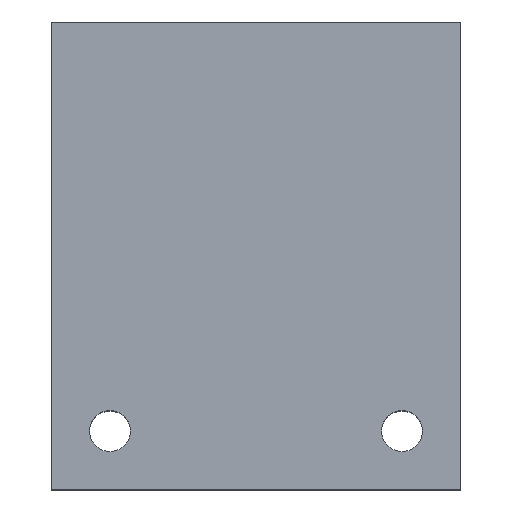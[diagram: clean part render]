
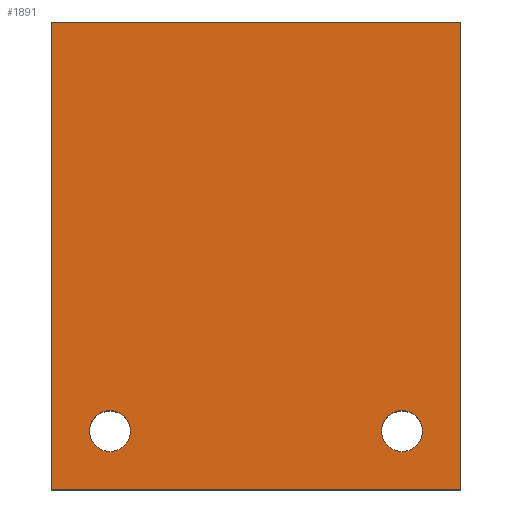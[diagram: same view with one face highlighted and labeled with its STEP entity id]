
A CAD part, top view. The second image highlights one B-rep face of the part: STEP entity #1891.
In plain terms, the highlighted planar face has unit normal (0, 0, 1).
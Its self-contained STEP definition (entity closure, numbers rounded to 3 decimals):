
#18=DIRECTION('',(0.,-1.,0.));
#19=VECTOR('',#18,80.);
#20=CARTESIAN_POINT('',(0.,0.,0.));
#21=LINE('',#20,#19);
#26=DIRECTION('',(-1.,0.,0.));
#27=VECTOR('',#26,70.);
#28=CARTESIAN_POINT('',(70.,0.,0.));
#29=LINE('',#28,#27);
#33=DIRECTION('',(0.,1.,0.));
#34=VECTOR('',#33,80.);
#35=CARTESIAN_POINT('',(70.,-80.,0.));
#36=LINE('',#35,#34);
#40=DIRECTION('',(1.,0.,0.));
#41=VECTOR('',#40,70.);
#42=CARTESIAN_POINT('',(0.,-80.,0.));
#43=LINE('',#42,#41);
#47=CARTESIAN_POINT('',(10.,-70.,0.));
#48=DIRECTION('',(0.,0.,1.));
#49=DIRECTION('',(-1.,0.,0.));
#50=AXIS2_PLACEMENT_3D('',#47,#48,#49);
#55=CARTESIAN_POINT('',(10.,-70.,0.));
#56=DIRECTION('',(0.,0.,1.));
#57=DIRECTION('',(1.,0.,0.));
#58=AXIS2_PLACEMENT_3D('',#55,#56,#57);
#63=CARTESIAN_POINT('',(60.,-70.,0.));
#64=DIRECTION('',(0.,0.,1.));
#65=DIRECTION('',(-1.,0.,0.));
#66=AXIS2_PLACEMENT_3D('',#63,#64,#65);
#71=CARTESIAN_POINT('',(60.,-70.,0.));
#72=DIRECTION('',(0.,0.,1.));
#73=DIRECTION('',(1.,0.,0.));
#74=AXIS2_PLACEMENT_3D('',#71,#72,#73);
#1652=CARTESIAN_POINT('',(0.,0.,0.));
#1653=CARTESIAN_POINT('',(0.,-80.,0.));
#1654=VERTEX_POINT('',#1652);
#1655=VERTEX_POINT('',#1653);
#1656=CARTESIAN_POINT('',(70.,-80.,0.));
#1657=VERTEX_POINT('',#1656);
#1658=CARTESIAN_POINT('',(70.,0.,0.));
#1659=VERTEX_POINT('',#1658);
#1829=CARTESIAN_POINT('',(6.5,-70.,0.));
#1831=VERTEX_POINT('',#1829);
#1833=CARTESIAN_POINT('',(13.5,-70.,0.));
#1835=VERTEX_POINT('',#1833);
#1837=CARTESIAN_POINT('',(56.5,-70.,0.));
#1839=VERTEX_POINT('',#1837);
#1841=CARTESIAN_POINT('',(63.5,-70.,0.));
#1843=VERTEX_POINT('',#1841);
#1864=CARTESIAN_POINT('',(0.,0.,0.));
#1865=DIRECTION('',(0.,0.,1.));
#1866=DIRECTION('',(1.,0.,0.));
#1867=AXIS2_PLACEMENT_3D('',#1864,#1865,#1866);
#1868=PLANE('',#1867);
#1870=ORIENTED_EDGE('',*,*,#1869,.F.);
#1872=ORIENTED_EDGE('',*,*,#1871,.F.);
#1874=ORIENTED_EDGE('',*,*,#1873,.F.);
#1876=ORIENTED_EDGE('',*,*,#1875,.F.);
#1877=EDGE_LOOP('',(#1870,#1872,#1874,#1876));
#1878=FACE_OUTER_BOUND('',#1877,.F.);
#1880=ORIENTED_EDGE('',*,*,#1879,.T.);
#1882=ORIENTED_EDGE('',*,*,#1881,.T.);
#1883=EDGE_LOOP('',(#1880,#1882));
#1884=FACE_BOUND('',#1883,.F.);
#1886=ORIENTED_EDGE('',*,*,#1885,.T.);
#1888=ORIENTED_EDGE('',*,*,#1887,.T.);
#1889=EDGE_LOOP('',(#1886,#1888));
#1890=FACE_BOUND('',#1889,.F.);
#51=CIRCLE('',#50,3.5);
#59=CIRCLE('',#58,3.5);
#67=CIRCLE('',#66,3.5);
#75=CIRCLE('',#74,3.5);
#1869=EDGE_CURVE('',#1654,#1655,#21,.T.);
#1871=EDGE_CURVE('',#1659,#1654,#29,.T.);
#1873=EDGE_CURVE('',#1657,#1659,#36,.T.);
#1875=EDGE_CURVE('',#1655,#1657,#43,.T.);
#1879=EDGE_CURVE('',#1831,#1835,#51,.T.);
#1881=EDGE_CURVE('',#1835,#1831,#59,.T.);
#1885=EDGE_CURVE('',#1839,#1843,#67,.T.);
#1887=EDGE_CURVE('',#1843,#1839,#75,.T.);
#1891=ADVANCED_FACE('',(#1878,#1884,#1890),#1868,.T.);
